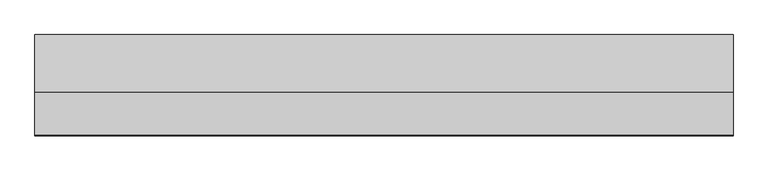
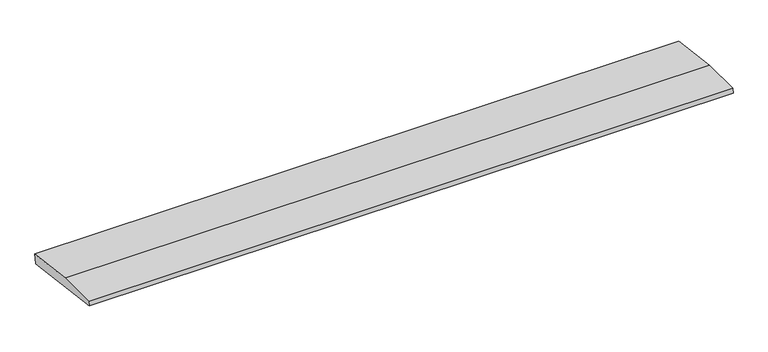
"""IFC4 building model written with IfcOpenShell, lengths in millimetres: beam geometry, weatherboad : weatherboad."""

import ifcopenshell
import ifcopenshell.guid

model = None  # the IFC model being written
_history = None  # IfcOwnerHistory: only IFC2X3 demands one
_inside = {}  # id of a spatial element -> (the spatial element, [elements in it])
_under = {}  # id of a project, library or spatial element -> (it, [spatial elements below it])
_declared = {}  # id of a project -> (the project, [libraries it declares])
_typed = {}  # id of a type object -> (the type object, [elements of that type])
_made_of = {}  # id of a material, layer set ... -> (it, [elements and type objects made of it])


def new_model(schema):
    """Start an empty IFC model of exactly this schema.

    Asked for "IFC4X3", IfcOpenShell would pick the latest addendum, in which some entities
    have other attributes; the version numbers below select the first issue.
    IFC2X3 requires an IfcOwnerHistory on every rooted entity: one is made here for all.
    """
    global model, _history
    if schema == "IFC4X3":
        model = ifcopenshell.file(schema_version=(4, 3, 0, 0))
    else:
        model = ifcopenshell.file(schema=schema)
    _inside.clear()
    _under.clear()
    _declared.clear()
    _typed.clear()
    _made_of.clear()
    _history = None
    if model.schema == "IFC2X3":
        org = make("IfcOrganization", Name="unknown")
        user = make(
            "IfcPersonAndOrganization",
            ThePerson=make("IfcPerson", FamilyName="unknown"),
            TheOrganization=org,
        )
        app = make(
            "IfcApplication",
            ApplicationDeveloper=org,
            Version="unknown",
            ApplicationFullName="unknown",
            ApplicationIdentifier="unknown",
        )
        _history = make(
            "IfcOwnerHistory",
            OwningUser=user,
            OwningApplication=app,
            ChangeAction="ADDED",
            CreationDate=0,
        )
    return model


def make(cls, **values):
    """One entity of the class cls with the attributes given. An attribute that is None is left unset."""
    return model.create_entity(
        cls, **{name: value for name, value in values.items() if value is not None}
    )


def rooted(cls, **values):
    """An entity with a GlobalId (a new one), such as an element, a storey or a relation."""
    return make(cls, GlobalId=ifcopenshell.guid.new(), OwnerHistory=_history, **values)


def si_unit(unit_type, name, prefix=None):
    """IfcSIUnit, for example si_unit("LENGTHUNIT", "METRE", prefix="MILLI")."""
    return make("IfcSIUnit", UnitType=unit_type, Prefix=prefix, Name=name)


def assignment(units):
    """IfcUnitAssignment: the units of a project."""
    return None if units is None else make("IfcUnitAssignment", Units=units)


def point(xyz):
    """IfcCartesianPoint."""
    return None if xyz is None else make("IfcCartesianPoint", Coordinates=xyz)


def direction(xyz):
    """IfcDirection."""
    return None if xyz is None else make("IfcDirection", DirectionRatios=xyz)


def frame(location, z_axis=None, x_axis=None):
    """IfcAxis2Placement3D, a coordinate frame: its origin and axes. An axis left out is left unset."""
    return make(
        "IfcAxis2Placement3D",
        Location=point(location),
        Axis=direction(z_axis),
        RefDirection=direction(x_axis),
    )


def origin():
    """The frame at (0, 0, 0) with its axes left unset."""
    return frame((0.0, 0.0, 0.0))


def place(relative_to, where):
    """IfcLocalPlacement: puts the frame where relative to a parent placement (None: the world)."""
    return make(
        "IfcLocalPlacement", PlacementRelTo=relative_to, RelativePlacement=where
    )


def context(
    kind, dimensions, precision=None, world=None, true_north=None, identifier=None
):
    """IfcGeometricRepresentationContext, for example the 3D "Model" context."""
    return make(
        "IfcGeometricRepresentationContext",
        ContextIdentifier=identifier,
        ContextType=kind,
        CoordinateSpaceDimension=dimensions,
        Precision=precision,
        WorldCoordinateSystem=world,
        TrueNorth=true_north,
    )


def project(units=None, contexts=None):
    """IfcProject with its units and contexts."""
    return rooted(
        "IfcProject",
        Name="project",
        RepresentationContexts=contexts,
        UnitsInContext=assignment(units),
    )


def spatial(cls, under=None, at=None, **own):
    """A site, building, storey or space (cls), placed at a placement, below another one or the project."""
    s = rooted(cls, ObjectPlacement=at, **own)
    if under is not None:
        _under.setdefault(under.id(), (under, []))[1].append(s)
    return s


def polyline(points):
    """IfcPolyline through the points."""
    return make("IfcPolyline", Points=[point(p) for p in points])


def outline(outer, holes=None, kind="AREA"):
    """IfcArbitraryClosedProfileDef: a profile drawn as a closed curve; with holes, ...WithVoids."""
    if holes is None:
        return make("IfcArbitraryClosedProfileDef", ProfileType=kind, OuterCurve=outer)
    return make(
        "IfcArbitraryProfileDefWithVoids",
        ProfileType=kind,
        OuterCurve=outer,
        InnerCurves=holes,
    )


def extrude(swept, where, along, depth):
    """IfcExtrudedAreaSolid: the profile swept, set in the frame where, extruded along a direction by depth."""
    return make(
        "IfcExtrudedAreaSolid",
        SweptArea=swept,
        Position=where,
        ExtrudedDirection=direction(along),
        Depth=depth,
    )


def shape(context_of_items, identifier, shape_type, items):
    """IfcShapeRepresentation: the items that make up one representation, for example the "Body"."""
    return make(
        "IfcShapeRepresentation",
        ContextOfItems=context_of_items,
        RepresentationIdentifier=identifier,
        RepresentationType=shape_type,
        Items=items,
    )


def source(mapping_origin, context_of_items, identifier, shape_type, items):
    """IfcRepresentationMap: a shape defined once, which mapped items show again and again."""
    return make(
        "IfcRepresentationMap",
        MappingOrigin=mapping_origin,
        MappedRepresentation=shape(context_of_items, identifier, shape_type, items),
    )


def transform(
    local_origin,
    x_axis=None,
    y_axis=None,
    z_axis=None,
    scale=None,
    scale2=None,
    scale3=None,
    uniform=True,
):
    """IfcCartesianTransformationOperator3D, or its non-uniform kind. x_axis, y_axis, z_axis: its Axis1, 2, 3."""
    if uniform:
        return make(
            "IfcCartesianTransformationOperator3D",
            Axis1=direction(x_axis),
            Axis2=direction(y_axis),
            LocalOrigin=point(local_origin),
            Scale=scale,
            Axis3=direction(z_axis),
        )
    return make(
        "IfcCartesianTransformationOperator3DnonUniform",
        Axis1=direction(x_axis),
        Axis2=direction(y_axis),
        LocalOrigin=point(local_origin),
        Scale=scale,
        Axis3=direction(z_axis),
        Scale2=scale2,
        Scale3=scale3,
    )


def mapped(mapping_source, mapping_target):
    """IfcMappedItem: shows the shape of a source again, moved by a transform."""
    return make(
        "IfcMappedItem", MappingSource=mapping_source, MappingTarget=mapping_target
    )


def made_of(thing, what):
    """Note that an element or type object is made of a material, layer set ...; save() writes the relation."""
    if what is not None:
        _made_of.setdefault(what.id(), (what, []))[1].append(thing)
    return thing


def element(
    cls,
    number,
    at=None,
    inside=None,
    cuts=None,
    type_object=None,
    material=None,
    context=None,
    identifier="Body",
    shape_type=None,
    held_by="IfcProductDefinitionShape",
    body=None,
    shapes=None,
    **own,
):
    """One element of the class cls, such as IfcWall. Its Tag is "e" and its number.

    at: its placement. inside: the storey or other place that contains it. cuts: it is an
    opening in that element (IfcRelVoidsElement). A single representation is given by context,
    identifier, shape_type and body (its items); several are given by shapes. held_by: the class
    of the entity that holds the representations. save() writes the other relations.
    """
    e = rooted(cls, Tag="e%d" % number, ObjectPlacement=at, **own)
    if body is not None:
        shapes = [shape(context, identifier, shape_type, body)]
    if shapes is not None:
        e.Representation = make(held_by, Representations=shapes)
    if inside is not None:
        _inside.setdefault(inside.id(), (inside, []))[1].append(e)
    if cuts is not None:
        rooted(
            "IfcRelVoidsElement", RelatingBuildingElement=cuts, RelatedOpeningElement=e
        )
    if type_object is not None:
        _typed.setdefault(type_object.id(), (type_object, []))[1].append(e)
    return made_of(e, material)


def aggregate(whole, parts):
    """IfcRelAggregates: a whole, such as a stair, and the parts it consists of."""
    return rooted("IfcRelAggregates", RelatingObject=whole, RelatedObjects=parts)


def save(model, path):
    """Write the relations noted so far, then the file.

    IfcRelAggregates (storeys below a building ...), IfcRelContainedInSpatialStructure (elements
    in a storey), IfcRelDefinesByType, IfcRelAssociatesMaterial and IfcRelDeclares: one each for
    every whole, place, type object, material and project.
    """
    for whole, parts in _under.values():
        aggregate(whole, parts)
    for where, things in _inside.values():
        rooted(
            "IfcRelContainedInSpatialStructure",
            RelatedElements=things,
            RelatingStructure=where,
        )
    for kind, things in _typed.values():
        rooted("IfcRelDefinesByType", RelatedObjects=things, RelatingType=kind)
    for what, things in _made_of.values():
        rooted("IfcRelAssociatesMaterial", RelatedObjects=things, RelatingMaterial=what)
    for by, libraries in _declared.values():
        rooted("IfcRelDeclares", RelatingContext=by, RelatedDefinitions=libraries)
    model.write(path)


def beam_6bf42582(model_context):
    return source(origin(), model_context, "Body", "SweptSolid", [
        extrude(outline(polyline([(0.0, -9.143159), (1.1226388, 0.0), (79.0749747, 0.0), (180.9387048, -12.5072934), (178.6231873, -31.3656703), (0.0, -9.143159)])), frame((-621.829283, 0.0, 0.0), z_axis=(1.0, 0.0, 0.0), x_axis=(0.0, 1.0, 0.0)), (0.0, 0.0, 1.0), 1243.658566),
    ])


if __name__ == "__main__":
    model = new_model("IFC4")
    model_context = context("Model", 3, world=origin())
    ifc_project = project(units=[si_unit("LENGTHUNIT", "METRE", prefix="MILLI")], contexts=[model_context])
    site = spatial("IfcSite", under=ifc_project)
    building = spatial("IfcBuilding", under=site)
    placement = place(None, origin())
    beam_shape = beam_6bf42582(model_context)
    element("IfcBeam", 1, ObjectType="weatherboad : weatherboad", at=placement, inside=building, context=model_context, shape_type="MappedRepresentation", body=[
        mapped(beam_shape, transform((0.0, 0.0, 0.0), x_axis=(1.0, 0.0, 0.0), y_axis=(0.0, 1.0, 0.0), z_axis=(0.0, 0.0, 1.0))),
    ])
    save(model, "model.ifc")
